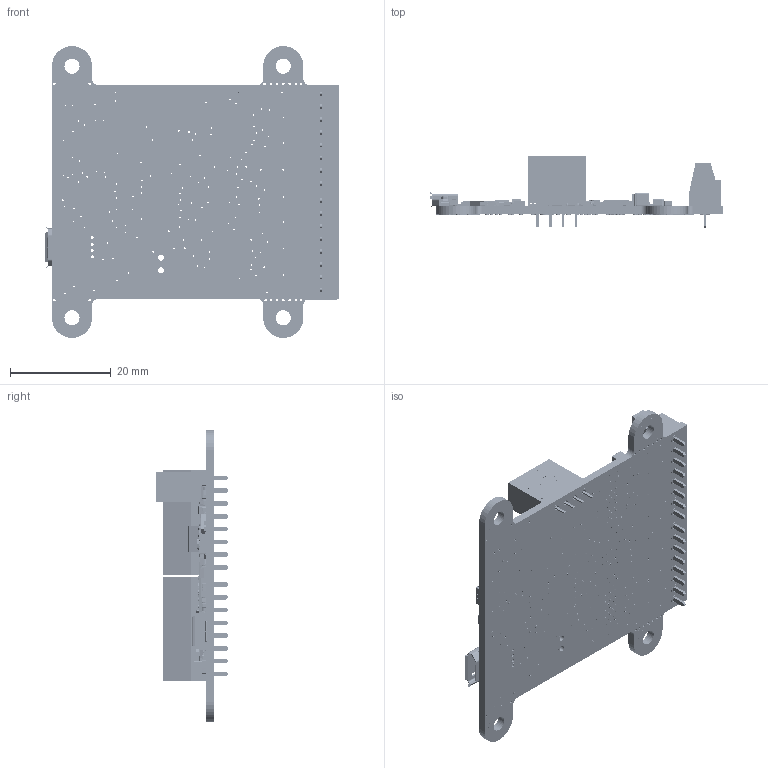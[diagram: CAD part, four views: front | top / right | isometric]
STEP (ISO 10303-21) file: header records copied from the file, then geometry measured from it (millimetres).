
FILE_DESCRIPTION (( 'STEP AP214' ), '1' );
FILE_NAME ('MAXIIO03.STEP', '2024-06-06T11:14:48', ( '' ), ( '' ), 'SwSTEP 2.0', 'SolidWorks 2008', '' );
FILE_SCHEMA (( 'AUTOMOTIVE_DESIGN' ));
Length unit declared in the file: millimetre
Products named in the file (52): C16; R2; L51; R11; R1; R103; R35; R36; PCB; D10; R38; SW1; R342; R341; R13; IC100; RELAY1; R39; C402; C53; C52; R7; R8; RELAY3; R29; P3; C27; C28; REG1; T2; D4; C401; C403; C19; C306; C18; C305; R12; D340; C301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
Assembly tree (139 placements, depth 2):
  PVSS
  MAXIIO03
    D340  x8
    L51
    P3  x2
    R36  x8
    R39  x2
    R342  x8
    C305  x4
    PCB
    C16
    R12
    D4  x2
    R341  x10
    C301  x10
    C403  x2
    C28  x9
    T2  x2
    T9
    C27  x8
    C306  x4
    D10  x8
    R35
    R29  x4
    R38  x8
    R11
    C52
    R7
    RELAY3
    reg400
    YLED
    IO4
    R103  x3
    R2
    C402
    IC100
    R13  x2
    R8
    sens1
    alim50
    C401  x4
    U1
    U300  x2
    C19
    RELAY1
    C53
    R1
    U2
    REG1
    C18
    USB1
    SW1
Bounding box: 58.3 x 14.4 x 58 mm (x, y, z)
Volume: 7167.3 mm3; surface area: 11172.6 mm2
Topology: 175 solids, 175 shells, 18127 faces, 46967 edges, 30339 vertices
Faces by surface type: plane 11395, cylinder 4494, bspline 1791, sphere 440, torus 7
Entity records: 543585 total; most frequent: CARTESIAN_POINT 132801, ORIENTED_EDGE 61250, DIRECTION 56229, EDGE_CURVE 30625, VECTOR 22007, LINE 22007, VERTEX_POINT 20228, AXIS2_PLACEMENT_3D 17111
